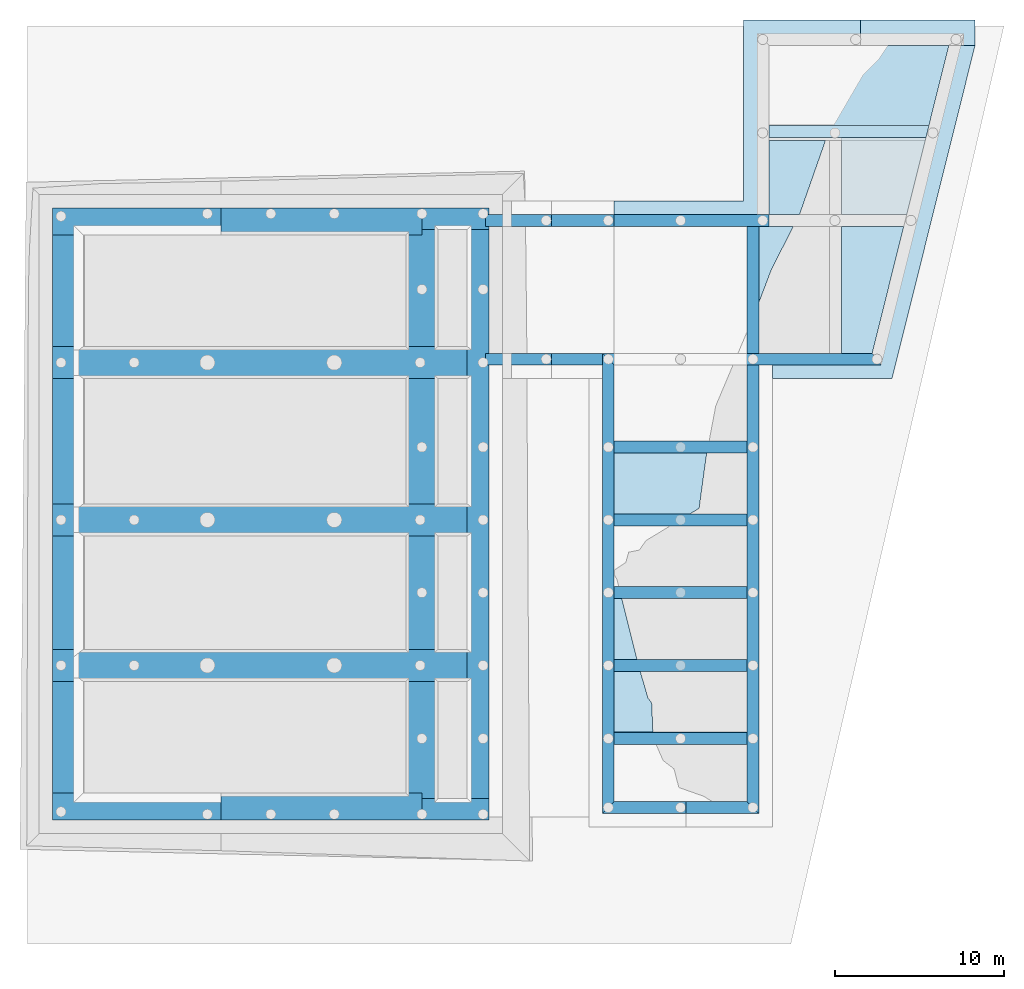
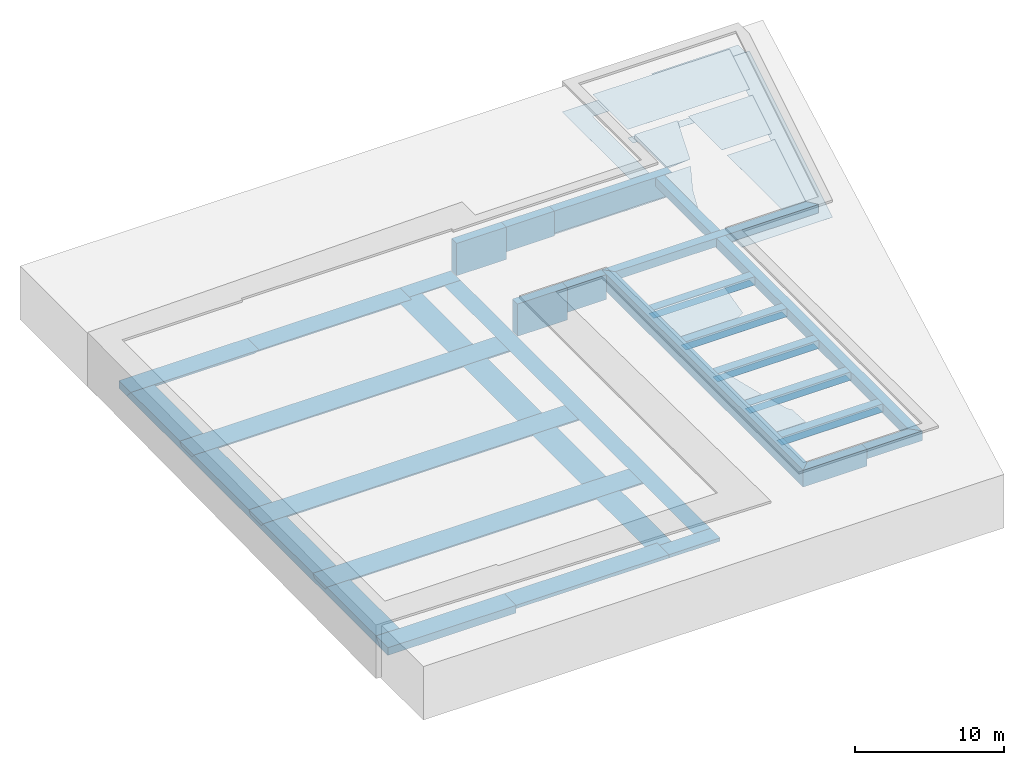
# One storey, part 3 of 7: 33 walls, 12 slabs.
"""IFC2X3 building model written with IfcOpenShell, lengths in millimetres."""

from ifc_helpers import new_model, entity, si_unit, converted_unit, derived_unit, money_unit, direction, frame, origin_with_axes, place, context, subcontext, project, spatial, polyline, outline, extrude, boolean, faceted_brep, material, layer, layer_set, layer_usage, type_object, element, save


model = new_model("IFC2X3")

# Units and contexts
model_context = context("Model", 3, precision=0.01, world=origin_with_axes(), true_north=direction((0.0, 1.0)))
body_context = subcontext(model_context, "Body", "Model", "MODEL_VIEW")
ifc_project = project(units=[si_unit("LENGTHUNIT", "METRE", prefix="MILLI"), si_unit("AREAUNIT", "SQUARE_METRE"), si_unit("VOLUMEUNIT", "CUBIC_METRE"), converted_unit("PLANEANGLEUNIT", "DEGREE", entity("IfcPlaneAngleMeasure", 0.0174532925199), si_unit("PLANEANGLEUNIT", "RADIAN"), dimensions=[0, 0, 0, 0, 0, 0, 0]), money_unit("USD"), converted_unit("TIMEUNIT", "Year", entity("IfcTimeMeasure", 31556926.0), si_unit("TIMEUNIT", "SECOND"), dimensions=[0, 0, 1, 0, 0, 0, 0]), si_unit("MASSUNIT", "GRAM", prefix="KILO"), si_unit("THERMODYNAMICTEMPERATUREUNIT", "DEGREE_CELSIUS"), si_unit("LUMINOUSINTENSITYUNIT", "LUMEN"), si_unit("ENERGYUNIT", "JOULE", prefix="MEGA"), derived_unit("THERMALCONDUCTANCEUNIT", [(si_unit("POWERUNIT", "WATT"), 1), (si_unit("LENGTHUNIT", "METRE"), -1), (si_unit("THERMODYNAMICTEMPERATUREUNIT", "KELVIN"), -1)]), derived_unit("SPECIFICHEATCAPACITYUNIT", [(si_unit("ENERGYUNIT", "JOULE"), 1), (si_unit("MASSUNIT", "GRAM", prefix="KILO"), -1), (si_unit("THERMODYNAMICTEMPERATUREUNIT", "KELVIN"), -1)]), derived_unit("MASSDENSITYUNIT", [(si_unit("MASSUNIT", "GRAM", prefix="KILO"), 1), (si_unit("VOLUMEUNIT", "CUBIC_METRE"), -1)])], contexts=[model_context])

# Site, building, storey
site_placement = place(None, frame((9669.71692459, 4224.13032188, 0.0), z_axis=(0.0, 0.0, 1.0), x_axis=(1.0, 0.0, 0.0)))
site = spatial("IfcSite", under=ifc_project, at=site_placement, Name="Exteriér", CompositionType="ELEMENT")
building_placement = place(site_placement, origin_with_axes())
building = spatial("IfcBuilding", under=site, at=building_placement, Name="Budova", CompositionType="ELEMENT")
storey_placement = place(building_placement, frame((0.0, 0.0, -5000.0), z_axis=(0.0, 0.0, 1.0), x_axis=(1.0, 0.0, 0.0)))
storey = spatial("IfcBuildingStorey", under=building, at=storey_placement, Name="Základy", CompositionType="ELEMENT", Elevation=-5000.0)

# Slabs
ifc_material_1 = material(Name="Zemina - původní")
ifc_layer_1 = layer(ifc_material_1, 1.0, ventilated="UNKNOWN")
ifc_layer_set_1 = layer_set([ifc_layer_1], Name="Zemina - původní 1")
ifc_layer_usage_1 = layer_usage(ifc_layer_set_1, "AXIS3", "NEGATIVE", 1.0)
slab_type_1 = type_object("IfcSlabType", Name="Zemina - původní 1", PredefinedType="FLOOR")
slab_1_placement = place(storey_placement, frame((20554.7372153, 30439.0524454, 2570.0), z_axis=(0.0, 0.0, 1.0), x_axis=(1.0, 0.0, 0.0)))
element("IfcSlab", 1, at=slab_1_placement, inside=storey, type_object=slab_type_1, material=ifc_layer_usage_1, Name="Pomocné výkopy", PredefinedType="FLOOR", context=body_context, shape_type="SweptSolid", body=[
    extrude(outline(polyline([(0.0, 0.0), (9149.99981042, 0.0), (9149.99981042, 10700.0008741), (14564.5590104, 10700.0008741), (14564.5590104, 12199.7918334), (7649.99985217, 12199.7918334), (7649.99985217, 1499.99995825), (0.0, 1499.99995825), (0.0, 0.0)])), frame((0.0, 0.0, -1.0), z_axis=(0.0, 0.0, 1.0), x_axis=(1.0, 0.0, 0.0)), (0.0, 0.0, 1.0), 1.0),
])
ifc_layer_usage_2 = layer_usage(ifc_layer_set_1, "AXIS3", "NEGATIVE", 1.0)
slab_2_placement = place(storey_placement, frame((29704.737132, 36389.0524993, 4389.0), z_axis=(0.0, 0.0, 1.0), x_axis=(1.0, 0.0, 0.0)))
element("IfcSlab", 2, at=slab_2_placement, inside=storey, type_object=slab_type_1, material=ifc_layer_usage_2, Name="Pomocné výkopy", PredefinedType="FLOOR", context=body_context, shape_type="SweptSolid", body=[
    extrude(outline(polyline([(0.0, 0.0), (9449.26153146, 0.0), (10633.2202376, 4750.00082164), (0.0, 4750.00082164), (0.0, 0.0)])), origin_with_axes(), (0.0, 0.0, 1.0), 1.0),
])
ifc_layer_usage_3 = layer_usage(ifc_layer_set_1, "AXIS3", "NEGATIVE", 1.0)
slab_3_placement = place(storey_placement, frame((35119.296269, 42639.0534058, 3289.0), z_axis=(0.0, 0.0, 1.0), x_axis=(1.0, 0.0, 0.0)))
element("IfcSlab", 3, at=slab_3_placement, inside=storey, type_object=slab_type_1, material=ifc_layer_usage_3, Name="Pomocné výkopy", PredefinedType="FLOOR", context=body_context, shape_type="SweptSolid", body=[
    extrude(outline(polyline([(0.0, 0.0), (0.0, -1500.00008622), (6764.55487381, -1499.99998542), (6764.55487381, 0.0), (0.0, 0.0)])), origin_with_axes(), (0.0, 0.0, 1.0), 1.0),
])
ifc_layer_usage_4 = layer_usage(ifc_layer_set_1, "AXIS3", "NEGATIVE", 1.0)
slab_4_placement = place(storey_placement, frame((38979.5206691, 35689.0525263, 4389.0), z_axis=(0.0, 0.0, 1.0), x_axis=(1.0, 0.0, 0.0)))
element("IfcSlab", 4, at=slab_4_placement, inside=storey, type_object=slab_type_1, material=ifc_layer_usage_4, Name="Pomocné výkopy", PredefinedType="FLOOR", context=body_context, shape_type="SweptSolid", body=[
    extrude(outline(polyline([(0.0, 0.0), (-5004.78355625, 0.0), (-5004.78355625, -4550.02757765), (-1134.107669, -4550.00007482), (0.0, 0.0)])), origin_with_axes(), (0.0, 0.0, 1.0), 1.0),
])
ifc_layer_usage_5 = layer_usage(ifc_layer_set_1, "AXIS3", "NEGATIVE", 1.0)
slab_5_placement = place(storey_placement, frame((37670.9350064, 30439.0524934, 4389.0), z_axis=(0.0, 0.0, 1.0), x_axis=(1.0, 0.0, 0.0)))
element("IfcSlab", 5, at=slab_5_placement, inside=storey, type_object=slab_type_1, material=ifc_layer_usage_5, Name="Pomocné výkopy", PredefinedType="FLOOR", context=body_context, shape_type="SweptSolid", body=[
    extrude(outline(polyline([(0.0, 0.0), (-3696.19770907, 0.0), (-3696.19770907, -7499.98438259), (-1869.40451265, -7499.98438259), (0.0, 0.0)])), origin_with_axes(), (0.0, 0.0, 1.0), 1.0),
])
ifc_layer_usage_6 = layer_usage(ifc_layer_set_1, "AXIS3", "NEGATIVE", 1.0)
slab_6_placement = place(storey_placement, frame((29704.737132, 35689.0525263, 3689.0), z_axis=(0.0, 0.0, 1.0), x_axis=(1.0, 0.0, 0.0)))
element("IfcSlab", 6, at=slab_6_placement, inside=storey, type_object=slab_type_1, material=ifc_layer_usage_6, Name="Pomocné výkopy", PredefinedType="FLOOR", context=body_context, shape_type="SweptSolid", body=[
    extrude(outline(polyline([(0.0, 0.0), (9274.7834805, 0.0), (9449.26156188, 700.000042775), (0.0, 700.000042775), (0.0, 0.0)])), origin_with_axes(), (0.0, 0.0, 1.0), 1.0),
])
ifc_layer_usage_7 = layer_usage(ifc_layer_set_1, "AXIS3", "NEGATIVE", 1.0)
slab_7_placement = place(storey_placement, frame((28404.6740761, 22240.0525651, 3689.0), z_axis=(0.0, 0.0, 1.0), x_axis=(1.0, 0.0, 0.0)))
element("IfcSlab", 7, at=slab_7_placement, inside=storey, type_object=slab_type_1, material=ifc_layer_usage_7, Name="Pomocné výkopy", PredefinedType="FLOOR", context=body_context, shape_type="SweptSolid", body=[
    extrude(outline(polyline([(0.0, 0.0), (1499.86882412, 0.0), (1499.86882412, -798.16805194), (8570.11217012, -795.995432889), (13479.1772033, 18899.0008482), (11933.2839013, 18899.0008482), (7396.85641765, 699.015545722), (0.0631063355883, 699.919412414), (0.0, 0.0)])), origin_with_axes(), (0.0, 0.0, 1.0), 1.0),
])
ifc_material_2 = material(Name="Hutněný násyp")
ifc_layer_2 = layer(ifc_material_2, 700.0, ventilated="UNKNOWN")
ifc_layer_set_2 = layer_set([ifc_layer_2], Name="Hutněný násyp 700")
ifc_layer_usage_8 = layer_usage(ifc_layer_set_2, "AXIS3", "NEGATIVE", 700.0)
slab_type_2 = type_object("IfcSlabType", Name="Hutněný násyp 700", PredefinedType="FLOOR")
slab_8_placement = place(storey_placement, frame((20554.7371319, 539.05249928, 3790.0), z_axis=(0.0, 0.0, 1.0), x_axis=(1.0, 0.0, 0.0)))
element("IfcSlab", 8, at=slab_8_placement, inside=storey, type_object=slab_type_2, material=ifc_layer_usage_8, Name="Zásyp", PredefinedType="FLOOR", context=body_context, shape_type="CSG", body=[
    boolean("DIFFERENCE", extrude(outline(polyline([(0.0, 0.0), (7850.00000008, 0.0), (7850.00000008, 3599.99999998), (0.0, 3599.99999998), (0.0, 0.0)])), origin_with_axes(), (0.0, 0.0, 1.0), 700.0), faceted_brep([(1987.8358841, 2034.84306567, 700.0), (2215.90652632, 1732.36010559, 700.0), (2283.08536584, 0.0, 700.0), (7850.00000008, 0.0, 700.0), (7850.00000008, 3599.99999998, 700.0), (1538.7889086, 3599.99999998, 700.0), (0.0, 1874.52074406, 570.805762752), (0.0, 238.862640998, 495.246864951), (375.823617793, 59.7874087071, 510.0), (693.886689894, 0.0, 541.492524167), (354.275278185, 0.0, 506.564099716), (0.0, 0.0, 486.415842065), (0.0, 0.0, 0.0), (7850.00000008, 0.0, 0.0), (380.004541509, 0.0, 507.65210169), (7850.00000008, 3599.99999998, 0.0), (0.0, 3599.99999998, 602.252206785), (0.0, 3599.99999998, 0.0)], [[[0, 1, 2, 3, 4, 5]], [[1, 0, 6, 7, 8]], [[9, 2, 1, 8]], [[10, 11, 12, 13, 3, 2, 9, 14]], [[3, 13, 15, 4]], [[16, 5, 4, 15, 17]], [[0, 5, 16, 6]], [[6, 16, 17, 12, 11, 7]], [[11, 10, 8, 7]], [[14, 9, 8]], [[13, 12, 17, 15]], [[10, 14, 8]]])),
])
ifc_layer_usage_9 = layer_usage(ifc_layer_set_2, "AXIS3", "NEGATIVE", 700.0)
slab_9_placement = place(storey_placement, frame((29704.737132, 31139.0524992, 3790.0), z_axis=(0.0, 0.0, 1.0), x_axis=(1.0, 0.0, 0.0)))
element("IfcSlab", 9, at=slab_9_placement, inside=storey, type_object=slab_type_2, material=ifc_layer_usage_9, Name="Zásyp", PredefinedType="FLOOR", context=body_context, shape_type="CSG", body=[
    boolean("DIFFERENCE", extrude(outline(polyline([(0.0, 0.0), (8140.675877, 0.0), (9274.78347056, 4550.00000006), (0.0, 4550.00000006), (0.0, 0.0)])), origin_with_axes(), (0.0, 0.0, 1.0), 700.0), faceted_brep([(0.0, 0.0, 543.594628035), (0.0, 0.0, 0.0), (8140.675877, 0.0, 0.0), (8140.675877, 0.0, 700.0), (1797.03378935, 0.0, 700.0), (1765.33435197, 0.0, 696.726977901), (0.0, 2978.84065703, 452.95525127), (8.56025010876e-05, 4379.99993751, 410.866273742), (0.0, 4380.00000005, 700.0), (0.0, 4550.00000006, 700.0), (0.0, 4550.00000006, 0.0), (9274.78347056, 4550.00000006, 0.0), (9274.78347056, 4550.00000006, 700.0), (3339.46442077, 4380.00000005, 700.0), (1816.35622246, 37.8872894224, 700.0), (411.886301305, 4380.00000005, 446.049853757)], [[[0, 1, 2, 3, 4, 5]], [[1, 0, 6, 7, 8, 9, 10]], [[1, 10, 11, 2]], [[3, 2, 11, 12]], [[9, 8, 13, 14, 4, 3, 12]], [[5, 4, 14]], [[6, 0, 5, 14, 13, 15]], [[7, 6, 15]], [[8, 7, 15, 13]], [[10, 9, 12, 11]]])),
])
ifc_layer_usage_10 = layer_usage(ifc_layer_set_2, "AXIS3", "NEGATIVE", 700.0)
slab_10_placement = place(storey_placement, frame((20554.7371319, 13439.0524993, 3790.0), z_axis=(0.0, 0.0, 1.0), x_axis=(1.0, 0.0, 0.0)))
element("IfcSlab", 10, at=slab_10_placement, inside=storey, type_object=slab_type_2, material=ifc_layer_usage_10, Name="Zásyp", PredefinedType="FLOOR", context=body_context, shape_type="CSG", body=[
    boolean("DIFFERENCE", extrude(outline(polyline([(0.0, 0.0), (7850.00000008, 0.0), (7850.00000008, 3600.00000003), (0.0, 3600.00000003), (0.0, 0.0)])), origin_with_axes(), (0.0, 0.0, 1.0), 700.0), faceted_brep([(0.0, 3600.00000003, 126.544430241), (5311.48525544, 3600.00000003, 684.215473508), (5475.99520424, 3600.00000003, 700.0), (7850.00000008, 3600.00000003, 700.0), (7850.00000008, 3600.00000003, 0.0), (0.0, 3600.00000003, 0.0), (5018.64755661, 335.812757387, 700.0), (5425.46979749, 3332.23894104, 700.0), (0.0, 3159.07915871, 132.829698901), (4466.30264913, 0.0, 700.0), (7850.00000008, 0.0, 700.0), (7850.00000008, 0.0, 0.0), (0.0, 0.0, 0.0), (0.0, 0.0, 382.819607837), (0.0, 1411.86956576, 299.32654295), (0.0, 2101.64950824, 227.504485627), (0.0, 2418.75873435, 204.306203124), (1126.97565166, 0.0, 503.984976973), (328.329359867, 0.0, 453.372236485), (744.053542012, 0.0, 462.282845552)], [[[0, 1, 2, 3, 4, 5]], [[6, 7, 1, 0, 8]], [[7, 2, 1]], [[6, 9, 10, 3, 2, 7]], [[10, 11, 4, 3]], [[11, 12, 5, 4]], [[8, 0, 5, 12, 13, 14, 15, 16]], [[9, 6, 8, 16, 17]], [[18, 13, 12, 11, 10, 9, 17, 19]], [[13, 18, 14]], [[18, 19, 15, 14]], [[19, 17, 16, 15]]])),
])
ifc_layer_usage_11 = layer_usage(ifc_layer_set_2, "AXIS3", "NEGATIVE", 700.0)
slab_11_placement = place(storey_placement, frame((29104.737132, 22939.0681254, 3790.0), z_axis=(0.0, 0.0, 1.0), x_axis=(1.0, 0.0, 0.0)))
element("IfcSlab", 11, at=slab_11_placement, inside=storey, type_object=slab_type_2, material=ifc_layer_usage_11, Name="Zásyp", PredefinedType="FLOOR", context=body_context, shape_type="CSG", body=[
    boolean("DIFFERENCE", extrude(outline(polyline([(0.0, 0.0), (4170.0, 0.0), (4170.0, 7499.98437388), (0.0, 7499.98437388), (0.0, 0.0)])), origin_with_axes(), (0.0, 0.0, 1.0), 700.0), faceted_brep([(0.0, 7499.98437388, 512.847579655), (1422.6617593, 7499.98437388, 636.255101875), (2040.03535032, 7499.98437388, 700.0), (4170.0, 7499.98437388, 700.0), (4170.0, 7499.98437388, 0.0), (0.0, 7499.98437388, 0.0), (0.0, 6443.55901554, 544.992211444), (746.883303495, 4964.3810383, 700.0), (0.0, 5272.82827301, 606.640735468), (1.20792265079e-10, 2999.15803132, 700.0), (0.0, 0.0, 700.0), (4170.0, 0.0, 700.0), (4170.0, 0.0, 0.0), (0.0, 0.0, 0.0)], [[[0, 1, 2, 3, 4, 5]], [[1, 0, 6]], [[7, 2, 1, 6, 8]], [[7, 9, 10, 11, 3, 2]], [[11, 12, 4, 3]], [[12, 13, 5, 4]], [[6, 0, 5, 13, 10, 9, 8]], [[9, 7, 8]], [[10, 13, 12, 11]]])),
])
ifc_layer_usage_12 = layer_usage(ifc_layer_set_2, "AXIS3", "NEGATIVE", 700.0)
slab_12_placement = place(storey_placement, frame((20554.7371319, 4839.05249926, 3790.0), z_axis=(0.0, 0.0, 1.0), x_axis=(1.0, 0.0, 0.0)))
element("IfcSlab", 12, at=slab_12_placement, inside=storey, type_object=slab_type_2, material=ifc_layer_usage_12, Name="Zásyp", PredefinedType="FLOOR", context=body_context, shape_type="CSG", body=[
    boolean("DIFFERENCE", extrude(outline(polyline([(0.0, 0.0), (7850.00000008, 0.0), (7850.00000008, 3600.00000003), (0.0, 3600.00000003), (0.0, 0.0)])), origin_with_axes(), (0.0, 0.0, 1.0), 700.0), faceted_brep([(448.670691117, 3600.00000003, 700.0), (1348.56437887, 0.0, 700.0), (7850.00000008, 0.0, 700.0), (7850.00000008, 3600.00000003, 700.0), (1244.16923753, 0.0, 694.042339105), (0.0, 3600.00000003, 674.395093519), (0.0, 2028.13186015, 651.971753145), (0.0, 0.0, 615.009538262), (0.0, 0.0, 0.0), (7850.00000008, 0.0, 0.0), (7850.00000008, 3600.00000003, 0.0), (0.0, 3600.00000003, 0.0)], [[[0, 1, 2, 3]], [[4, 1, 0, 5, 6]], [[4, 7, 8, 9, 2, 1]], [[2, 9, 10, 3]], [[5, 0, 3, 10, 11]], [[6, 5, 11, 8, 7]], [[7, 4, 6]], [[9, 8, 11, 10]]])),
])

# Walls
ifc_material_3 = material(Name="Železobeton C 20/25")
ifc_layer_3 = layer(ifc_material_3, 700.0, ventilated="UNKNOWN")
ifc_layer_set_3 = layer_set([ifc_layer_3], Name="Železobeton C 20/25 700")
ifc_layer_usage_13 = layer_usage(ifc_layer_set_3, "AXIS2", "NEGATIVE", 700.0)
wall_type_1 = type_object("IfcWallType", Name="Železobeton C 20/25 700", PredefinedType="NOTDEFINED")
wall_1_placement = place(storey_placement, frame((20554.7371319, 31139.0524992, 2450.0), z_axis=(0.0, 0.0, 1.0), x_axis=(-1.0, 0.0, 0.0)))
element("IfcWallStandardCase", 13, at=wall_1_placement, inside=storey, type_object=wall_type_1, material=ifc_layer_usage_13, Name="ST19", context=body_context, shape_type="SweptSolid", body=[
    extrude(outline(polyline([(0.0, 0.0), (3720.0, 0.0), (3720.0, 700.0), (0.0, 700.0), (0.0, 0.0)])), origin_with_axes(), (0.0, 0.0, 1.0), 2040.0),
])
ifc_layer_usage_14 = layer_usage(ifc_layer_set_3, "AXIS2", "NEGATIVE", 350.0)
wall_2_placement = place(storey_placement, frame((19854.7371319, 164.052499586, 3790.0), z_axis=(0.0, 0.0, 1.0), x_axis=(1.0, 0.0, 0.0)))
element("IfcWallStandardCase", 14, at=wall_2_placement, inside=storey, type_object=wall_type_1, material=ifc_layer_usage_14, Name="ST19", context=body_context, shape_type="SweptSolid", body=[
    extrude(outline(polyline([(700.0, -350.0), (8550.00000008, -350.0), (8550.00000008, 350.0), (700.0, 350.0), (700.0, -350.0)])), origin_with_axes(), (0.0, 0.0, 1.0), 700.0),
])
ifc_layer_usage_15 = layer_usage(ifc_layer_set_3, "AXIS2", "NEGATIVE", 700.0)
wall_3_placement = place(storey_placement, frame((19854.7371319, 22239.0681254, 3790.0), z_axis=(0.0, 0.0, 1.0), x_axis=(1.0, 0.0, 0.0)))
element("IfcWallStandardCase", 15, at=wall_3_placement, inside=storey, type_object=wall_type_1, material=ifc_layer_usage_15, Name="ST19", context=body_context, shape_type="SweptSolid", body=[
    extrude(outline(polyline([(700.0, 0.0), (16493.7317174, 0.0), (15946.792728, 700.0), (0.0, 700.0), (700.0, 0.0)])), origin_with_axes(), (0.0, 0.0, 1.0), 700.0),
])
ifc_layer_usage_16 = layer_usage(ifc_layer_set_3, "AXIS2", "POSITIVE", -700.0)
wall_4_placement = place(storey_placement, frame((16834.7371319, 22239.0627679, 1830.0), z_axis=(0.0, 0.0, 1.0), x_axis=(-0.999999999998, -1.77400609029e-06, 0.0)))
element("IfcWallStandardCase", 16, at=wall_4_placement, inside=storey, type_object=wall_type_1, material=ifc_layer_usage_16, Name="ST19", context=body_context, shape_type="SweptSolid", body=[
    extrude(outline(polyline([(0.0, -700.0), (3879.99999992, -700.0), (3879.99999992, 0.0), (0.0, 0.0), (0.0, -700.0)])), origin_with_axes(), (0.0, 0.0, 1.0), 2660.0),
])
ifc_layer_usage_17 = layer_usage(ifc_layer_set_3, "AXIS2", "NEGATIVE", 700.0)
wall_5_placement = place(storey_placement, frame((16834.7371319, 31139.0524992, 1830.0), z_axis=(0.0, 0.0, 1.0), x_axis=(-1.0, 0.0, 0.0)))
element("IfcWallStandardCase", 17, at=wall_5_placement, inside=storey, type_object=wall_type_1, material=ifc_layer_usage_17, Name="ST19", context=body_context, shape_type="SweptSolid", body=[
    extrude(outline(polyline([(0.0, 0.0), (3879.99999991, 0.0), (3879.99999991, 700.0), (0.0, 700.0), (0.0, 0.0)])), origin_with_axes(), (0.0, 0.0, 1.0), 2660.0),
])
ifc_layer_usage_18 = layer_usage(ifc_layer_set_3, "AXIS2", "POSITIVE", -700.0)
wall_6_placement = place(storey_placement, frame((19854.7371319, -4260.94750073, 3100.0), z_axis=(0.0, 0.0, 1.0), x_axis=(0.0, 1.0, 0.0)))
element("IfcWallStandardCase", 18, at=wall_6_placement, inside=storey, type_object=wall_type_1, material=ifc_layer_usage_18, Name="ST19", context=body_context, shape_type="SweptSolid", body=[
    extrude(outline(polyline([(700.000000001, -700.0), (26500.0156261, -700.0), (27200.0156261, 0.0), (-2.48689957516e-10, 0.0), (700.000000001, -700.0)])), origin_with_axes(), (0.0, 0.0, 1.0), 1390.0),
])
ifc_layer_usage_19 = layer_usage(ifc_layer_set_3, "AXIS2", "NEGATIVE", 350.0)
wall_7_placement = place(storey_placement, frame((19854.7371319, 13089.0524993, 3790.0), z_axis=(0.0, 0.0, 1.0), x_axis=(1.0, 0.0, 0.0)))
element("IfcWallStandardCase", 19, at=wall_7_placement, inside=storey, type_object=wall_type_1, material=ifc_layer_usage_19, Name="ST19", context=body_context, shape_type="SweptSolid", body=[
    extrude(outline(polyline([(700.0, -350.0), (8550.00000008, -350.0), (8550.00000008, 350.0), (700.0, 350.0), (700.0, -350.0)])), origin_with_axes(), (0.0, 0.0, 1.0), 700.0),
])
ifc_layer_usage_20 = layer_usage(ifc_layer_set_3, "AXIS2", "NEGATIVE", 700.0)
wall_8_placement = place(storey_placement, frame((29104.737132, 22239.0681254, 3790.0), z_axis=(0.0, 0.0, 1.0), x_axis=(0.0, 1.0, 0.0)))
element("IfcWallStandardCase", 20, at=wall_8_placement, inside=storey, type_object=wall_type_1, material=ifc_layer_usage_20, Name="ST19", context=body_context, shape_type="SweptSolid", body=[
    extrude(outline(polyline([(700.0, 0.0), (8199.98437388, 0.0), (8199.98437388, 700.0), (700.0, 700.0), (700.0, 0.0)])), origin_with_axes(), (0.0, 0.0, 1.0), 700.0),
])
ifc_layer_usage_21 = layer_usage(ifc_layer_set_3, "AXIS2", "NEGATIVE", 350.0)
wall_9_placement = place(storey_placement, frame((19854.7371319, 17389.0524993, 3790.0), z_axis=(0.0, 0.0, 1.0), x_axis=(1.0, 0.0, 0.0)))
element("IfcWallStandardCase", 21, at=wall_9_placement, inside=storey, type_object=wall_type_1, material=ifc_layer_usage_21, Name="ST19", context=body_context, shape_type="SweptSolid", body=[
    extrude(outline(polyline([(700.0, -350.0), (8550.00000008, -350.0), (8550.00000008, 350.0), (700.0, 350.0), (700.0, -350.0)])), origin_with_axes(), (0.0, 0.0, 1.0), 700.0),
])
ifc_layer_usage_22 = layer_usage(ifc_layer_set_3, "AXIS2", "NEGATIVE", 350.0)
wall_10_placement = place(storey_placement, frame((19854.7371319, 4489.05249926, 3790.0), z_axis=(0.0, 0.0, 1.0), x_axis=(1.0, 0.0, 0.0)))
element("IfcWallStandardCase", 22, at=wall_10_placement, inside=storey, type_object=wall_type_1, material=ifc_layer_usage_22, Name="ST19", context=body_context, shape_type="SweptSolid", body=[
    extrude(outline(polyline([(700.0, -350.0), (8550.00000008, -350.0), (8550.00000008, 350.0), (700.0, 350.0), (700.0, -350.0)])), origin_with_axes(), (0.0, 0.0, 1.0), 700.0),
])
ifc_layer_usage_23 = layer_usage(ifc_layer_set_3, "AXIS2", "NEGATIVE", 350.0)
wall_11_placement = place(storey_placement, frame((19854.7371319, 8789.05249929, 3790.0), z_axis=(0.0, 0.0, 1.0), x_axis=(1.0, 0.0, 0.0)))
element("IfcWallStandardCase", 23, at=wall_11_placement, inside=storey, type_object=wall_type_1, material=ifc_layer_usage_23, Name="ST19", context=body_context, shape_type="SweptSolid", body=[
    extrude(outline(polyline([(700.0, -350.0), (8550.00000008, -350.0), (8550.00000008, 350.0), (700.0, 350.0), (700.0, -350.0)])), origin_with_axes(), (0.0, 0.0, 1.0), 700.0),
])
ifc_layer_usage_24 = layer_usage(ifc_layer_set_3, "AXIS2", "NEGATIVE", 700.0)
wall_12_placement = place(storey_placement, frame((29704.737132, 31139.0524992, 2670.0), z_axis=(0.0, 0.0, 1.0), x_axis=(-1.0, 0.0, 0.0)))
element("IfcWallStandardCase", 24, at=wall_12_placement, inside=storey, type_object=wall_type_1, material=ifc_layer_usage_24, Name="ST19", context=body_context, shape_type="SweptSolid", body=[
    extrude(outline(polyline([(0.0, 0.0), (9150.00000008, 0.0), (9150.00000008, 700.0), (0.0, 700.0), (0.0, 0.0)])), origin_with_axes(), (0.0, 0.0, 1.0), 1820.0),
])
ifc_layer_usage_25 = layer_usage(ifc_layer_set_3, "AXIS2", "NEGATIVE", 700.0)
wall_13_placement = place(storey_placement, frame((29104.737132, -4260.94750072, 3682.0), z_axis=(0.0, 0.0, 1.0), x_axis=(0.0, 1.0, 0.0)))
element("IfcWallStandardCase", 25, at=wall_13_placement, inside=storey, type_object=wall_type_1, material=ifc_layer_usage_25, Name="ST19", context=body_context, shape_type="SweptSolid", body=[
    extrude(outline(polyline([(0.0, 0.0), (26500.0, 0.0), (26500.0, 700.0), (699.999999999, 700.0), (0.0, 0.0)])), origin_with_axes(), (0.0, 0.0, 1.0), 808.0),
])
ifc_layer_usage_26 = layer_usage(ifc_layer_set_3, "AXIS2", "NEGATIVE", 700.0)
wall_14_placement = place(storey_placement, frame((24804.7371319, -4260.94750072, 3690.0), z_axis=(0.0, 0.0, 1.0), x_axis=(1.0, 0.0, 0.0)))
element("IfcWallStandardCase", 26, at=wall_14_placement, inside=storey, type_object=wall_type_1, material=ifc_layer_usage_26, Name="ST19", context=body_context, shape_type="SweptSolid", body=[
    extrude(outline(polyline([(0.0, 0.0), (4300.00000008, 0.0), (3600.00000008, 700.0), (0.0, 700.0), (0.0, 0.0)])), origin_with_axes(), (0.0, 0.0, 1.0), 800.0),
])
ifc_layer_usage_27 = layer_usage(ifc_layer_set_3, "AXIS2", "NEGATIVE", 700.0)
wall_15_placement = place(storey_placement, frame((19854.7371319, -4260.94750073, 3100.0), z_axis=(0.0, 0.0, 1.0), x_axis=(1.0, 0.0, 0.0)))
element("IfcWallStandardCase", 27, at=wall_15_placement, inside=storey, type_object=wall_type_1, material=ifc_layer_usage_27, Name="ST19", context=body_context, shape_type="SweptSolid", body=[
    extrude(outline(polyline([(0.0, 0.0), (4950.0, 0.0), (4950.0, 700.0), (700.000000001, 700.0), (0.0, 0.0)])), origin_with_axes(), (0.0, 0.0, 1.0), 1390.0),
])
ifc_layer_usage_28 = layer_usage(ifc_layer_set_3, "AXIS2", "POSITIVE", -700.0)
wall_16_placement = place(storey_placement, frame((19854.7371319, 22239.0681254, 2450.0), z_axis=(0.0, 0.0, 1.0), x_axis=(-0.999999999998, -1.77400608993e-06, 0.0)))
element("IfcWallStandardCase", 28, at=wall_16_placement, inside=storey, type_object=wall_type_1, material=ifc_layer_usage_28, Name="ST19", context=body_context, shape_type="SweptSolid", body=[
    extrude(outline(polyline([(-0.00124180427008, -700.0), (3020.0, -700.0), (3020.0, 0.0), (0.0, 0.0), (-0.00124180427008, -700.0)])), origin_with_axes(), (0.0, 0.0, 1.0), 2040.0),
])
wall_type_2 = type_object("IfcWallType", Name="Betonový základ vnitřní 1900 x 278", PredefinedType="NOTDEFINED")
for number, where, z_axis, x_axis, name in (
    (29, (-12645.263015, 4489.05243066, 1528.0), (0.0, 0.0, 1.0), (1.0, 0.0, 0.0), "ST27"),
    (30, (-12645.263015, 22389.0522029, 1528.0), (0.0, 0.0, 1.0), (1.0, 0.0, 0.0), "ST27"),
    (31, (-12645.263015, 13089.0526984, 1528.0), (0.0, 0.0, 1.0), (1.0, 0.0, 0.0), "ST27"),
):
    element("IfcWall", number, at=place(storey_placement, frame(where, z_axis=z_axis, x_axis=x_axis)), inside=storey, type_object=wall_type_2, material=ifc_material_3, Name=name, context=body_context, shape_type="SweptSolid", body=[
        extrude(outline(polyline([(-950.0, 0.0), (-750.0, -278.0), (750.0, -278.0), (950.0, 0.0), (-950.0, 0.0)])), frame((0.0, 0.0, 0.0), z_axis=(-1.0, 0.0, 0.0), x_axis=(0.0, -1.0, 0.0)), (0.0, 0.0, -1.0), 25800.0004373),
    ])
wall_17_placement = place(storey_placement, frame((9184.73712196, -4660.94736193, 1528.0), z_axis=(0.0, 0.0, 1.0), x_axis=(0.0, 1.0, 0.0)))
element("IfcWall", 32, at=wall_17_placement, inside=storey, type_object=wall_type_2, material=ifc_material_3, Name="ST26", context=body_context, shape_type="SweptSolid", body=[
    extrude(outline(polyline([(-950.0, 0.0), (-750.0, -278.0), (750.0, -278.0), (950.0, 0.0), (-950.0, 0.0)])), frame((0.0, 0.0, 0.0), z_axis=(-1.0, 0.0, 0.0), x_axis=(0.0, -1.0, 0.0)), (0.0, 0.0, -1.0), 36199.9998612),
])
wall_type_3 = type_object("IfcWallType", Name="Betonový základ vzdálenější boky 1605 x 278", PredefinedType="NOTDEFINED")
wall_18_placement = place(storey_placement, frame((-2680.51488801, -4660.94736193, 1528.0), z_axis=(0.0, 0.0, 1.0), x_axis=(1.0, 0.0, 0.0)))
element("IfcWall", 33, at=wall_18_placement, inside=storey, type_object=wall_type_3, material=ifc_material_3, Name="ST22", context=body_context, shape_type="SweptSolid", body=[
    extrude(outline(polyline([(0.0, -278.0), (1405.0, -278.0), (1605.0, 0.0), (0.0, 0.0), (0.0, -278.0)])), frame((0.0, 0.0, 0.0), z_axis=(1.0, 0.0, 0.0), x_axis=(0.0, 1.0, 0.0)), (0.0, 0.0, 1.0), 11865.25201),
])
wall_19_placement = place(storey_placement, frame((-2680.51488801, 31539.0524993, 1528.0), z_axis=(0.0, 0.0, 1.0), x_axis=(1.0, 0.0, 0.0)))
element("IfcWall", 34, at=wall_19_placement, inside=storey, type_object=wall_type_3, material=ifc_material_3, Name="ST22", context=body_context, shape_type="SweptSolid", body=[
    extrude(outline(polyline([(0.0, -278.0), (1405.0, -278.0), (1605.0, 0.0), (0.0, 0.0), (0.0, -278.0)])), frame((0.0, 0.0, 0.0), z_axis=(-1.0, 0.0, 0.0), x_axis=(0.0, -1.0, 0.0)), (0.0, 0.0, -1.0), 11865.25201),
])
ifc_layer_4 = layer(ifc_material_1, 700.0, ventilated="UNKNOWN")
ifc_layer_set_4 = layer_set([ifc_layer_4], Name="Zemina - původní 700")
ifc_layer_usage_29 = layer_usage(ifc_layer_set_4, "AXIS2", "NEGATIVE", 700.0)
wall_type_4 = type_object("IfcWallType", Name="Zemina - původní 700", PredefinedType="NOTDEFINED")
wall_20_placement = place(storey_placement, frame((19854.7371319, 17039.0524993, 3798.0), z_axis=(0.0, 0.0, 1.0), x_axis=(1.0, 0.0, 0.0)))
element("IfcWallStandardCase", 35, at=wall_20_placement, inside=storey, type_object=wall_type_4, material=ifc_layer_usage_29, Name="pomocné výkopy", context=body_context, shape_type="SweptSolid", body=[
    extrude(outline(polyline([(700.0, 0.0), (8550.00000008, 0.0), (8550.00000008, 700.0), (700.0, 700.0), (700.0, 0.0)])), origin_with_axes(), (0.0, 0.0, 1.0), 1.0),
])
ifc_layer_usage_30 = layer_usage(ifc_layer_set_4, "AXIS2", "NEGATIVE", 700.0)
wall_21_placement = place(storey_placement, frame((19854.7371319, 12739.0524993, 3798.0), z_axis=(0.0, 0.0, 1.0), x_axis=(1.0, 0.0, 0.0)))
element("IfcWallStandardCase", 36, at=wall_21_placement, inside=storey, type_object=wall_type_4, material=ifc_layer_usage_30, Name="pomocné výkopy", context=body_context, shape_type="SweptSolid", body=[
    extrude(outline(polyline([(700.0, 0.0), (8550.00000008, 0.0), (8550.00000008, 700.0), (700.0, 700.0), (700.0, 0.0)])), origin_with_axes(), (0.0, 0.0, 1.0), 1.0),
])
ifc_layer_usage_31 = layer_usage(ifc_layer_set_4, "AXIS2", "NEGATIVE", 700.0)
wall_22_placement = place(storey_placement, frame((19854.7371319, 8439.05249929, 3798.0), z_axis=(0.0, 0.0, 1.0), x_axis=(1.0, 0.0, 0.0)))
element("IfcWallStandardCase", 37, at=wall_22_placement, inside=storey, type_object=wall_type_4, material=ifc_layer_usage_31, Name="pomocné výkopy", context=body_context, shape_type="SweptSolid", body=[
    extrude(outline(polyline([(700.0, 0.0), (8550.00000008, 0.0), (8550.00000008, 700.0), (700.0, 700.0), (700.0, 0.0)])), origin_with_axes(), (0.0, 0.0, 1.0), 1.0),
])
ifc_layer_usage_32 = layer_usage(ifc_layer_set_4, "AXIS2", "NEGATIVE", 700.0)
wall_23_placement = place(storey_placement, frame((19854.7371319, -160.94750072, 3798.0), z_axis=(0.0, 0.0, 1.0), x_axis=(1.0, 0.0, 0.0)))
element("IfcWallStandardCase", 38, at=wall_23_placement, inside=storey, type_object=wall_type_4, material=ifc_layer_usage_32, Name="pomocné výkopy", context=body_context, shape_type="SweptSolid", body=[
    extrude(outline(polyline([(700.0, 0.0), (8550.00000008, 0.0), (8550.00000008, 700.0), (700.0, 700.0), (700.0, 0.0)])), origin_with_axes(), (0.0, 0.0, 1.0), 1.0),
])
ifc_layer_usage_33 = layer_usage(ifc_layer_set_4, "AXIS2", "NEGATIVE", 700.0)
wall_24_placement = place(storey_placement, frame((19854.7371319, 4139.05249926, 3798.0), z_axis=(0.0, 0.0, 1.0), x_axis=(1.0, 0.0, 0.0)))
element("IfcWallStandardCase", 39, at=wall_24_placement, inside=storey, type_object=wall_type_4, material=ifc_layer_usage_33, Name="pomocné výkopy", context=body_context, shape_type="SweptSolid", body=[
    extrude(outline(polyline([(700.0, 0.0), (8550.00000008, 0.0), (8550.00000008, 700.0), (700.0, 700.0), (700.0, 0.0)])), origin_with_axes(), (0.0, 0.0, 1.0), 1.0),
])
wall_type_5 = type_object("IfcWallType", Name="Betonový základ záda 1290 x 278", PredefinedType="NOTDEFINED")
wall_25_placement = place(storey_placement, frame((13154.7374223, -4660.94736193, 1528.0), z_axis=(0.0, 0.0, 1.0), x_axis=(0.0, 1.0, 0.0)))
element("IfcWall", 40, at=wall_25_placement, inside=storey, type_object=wall_type_5, material=ifc_material_3, Name="ST24", context=body_context, shape_type="SweptSolid", body=[
    extrude(outline(polyline([(0.0, -278.0), (0.0, 0.0), (-1290.0, 0.0), (-1040.0, -278.0), (0.0, -278.0)])), frame((0.0, 0.0, 0.0), z_axis=(-1.0, 0.0, 0.0), x_axis=(0.0, -1.0, 0.0)), (0.0, 0.0, -1.0), 36199.9998612),
])
wall_26_placement = place(storey_placement, frame((9184.73712196, -4660.94736193, 1528.0), z_axis=(0.0, 0.0, 1.0), x_axis=(1.0, 0.0, 0.0)))
element("IfcWall", 41, at=wall_26_placement, inside=storey, type_object=wall_type_5, material=ifc_material_3, Name="ST23", context=body_context, shape_type="SweptSolid", body=[
    extrude(outline(polyline([(0.0, -278.0), (0.0, 0.0), (-1290.0, 0.0), (-1040.0, -278.0), (0.0, -278.0)])), frame((0.0, 0.0, 0.0), z_axis=(-1.0, 0.0, 0.0), x_axis=(0.0, -1.0, 0.0)), (0.0, 0.0, -1.0), 3970.00030031),
])
wall_27_placement = place(storey_placement, frame((9184.73712196, 31539.0524993, 1528.0), z_axis=(0.0, 0.0, 1.0), x_axis=(1.0, 0.0, 0.0)))
element("IfcWall", 42, at=wall_27_placement, inside=storey, type_object=wall_type_5, material=ifc_material_3, Name="ST23", context=body_context, shape_type="SweptSolid", body=[
    extrude(outline(polyline([(0.0, -278.0), (0.0, 0.0), (-1290.0, 0.0), (-1040.0, -278.0), (0.0, -278.0)])), frame((0.0, 0.0, 0.0), z_axis=(1.0, 0.0, 0.0), x_axis=(0.0, 1.0, 0.0)), (0.0, 0.0, 1.0), 3970.00030031),
])
wall_type_6 = type_object("IfcWallType", Name="Betonový základ předek 1815 x 628", PredefinedType="NOTDEFINED")
wall_28_placement = place(storey_placement, frame((-12645.263015, -4660.94736193, 1528.0), z_axis=(0.0, 0.0, 1.0), x_axis=(0.0, 1.0, 0.0)))
element("IfcWall", 43, at=wall_28_placement, inside=storey, type_object=wall_type_6, material=ifc_material_3, Name="ST28", context=body_context, shape_type="SweptSolid", body=[
    extrude(outline(polyline([(0.0, -628.0), (1250.0, -628.0), (1815.0, 0.0), (0.0, 0.0), (0.0, -628.0)])), frame((0.0, 0.0, 0.0), z_axis=(-1.0, 0.0, 0.0), x_axis=(0.0, -1.0, 0.0)), (0.0, 0.0, -1.0), 36199.9998612),
])
wall_type_7 = type_object("IfcWallType", Name="Betonový základ bližší boky 1605 x 628", PredefinedType="NOTDEFINED")
wall_29_placement = place(storey_placement, frame((-12645.263015, -4660.94736193, 1528.0), z_axis=(0.0, 0.0, 1.0), x_axis=(1.0, 0.0, 0.0)))
element("IfcWall", 44, at=wall_29_placement, inside=storey, type_object=wall_type_7, material=ifc_material_3, Name="ST21", context=body_context, shape_type="SweptSolid", body=[
    extrude(outline(polyline([(0.0, -628.0), (1040.0, -628.0), (1605.0, 0.0), (0.0, 0.0), (0.0, -628.0)])), frame((0.0, 0.0, 0.0), z_axis=(1.0, 0.0, 0.0), x_axis=(0.0, 1.0, 0.0)), (0.0, 0.0, 1.0), 9964.74812699),
])
wall_30_placement = place(storey_placement, frame((-12645.263015, 31539.0524993, 1528.0), z_axis=(0.0, 0.0, 1.0), x_axis=(1.0, 0.0, 0.0)))
element("IfcWall", 45, at=wall_30_placement, inside=storey, type_object=wall_type_7, material=ifc_material_3, Name="ST21", context=body_context, shape_type="SweptSolid", body=[
    extrude(outline(polyline([(0.0, -628.0), (1040.0, -628.0), (1605.0, 0.0), (0.0, 0.0), (0.0, -628.0)])), frame((0.0, 0.0, 0.0), z_axis=(-1.0, 0.0, 0.0), x_axis=(0.0, -1.0, 0.0)), (0.0, 0.0, -1.0), 9964.74812699),
])

save(model, "model.ifc")
